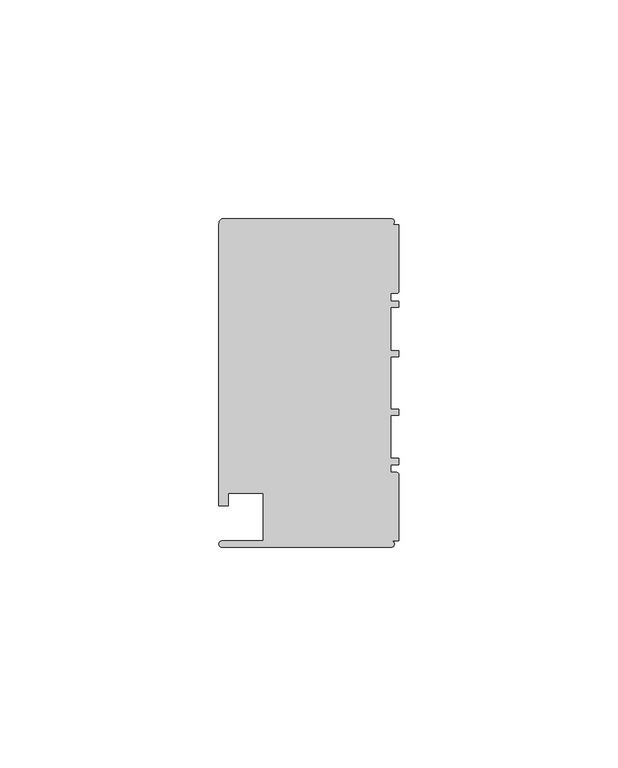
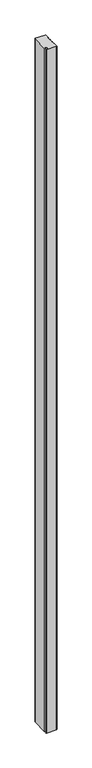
"""IFC4 building model written with IfcOpenShell, lengths in millimetres: member geometry, Прямоугольный импост : 1-AMG-1-Профиль 40Х75 Верх П."""

from ifc_helpers import new_model, si_unit, point, frame, frame_2d, origin, place, context, project, spatial, polyline, circle_curve, trimmed, segment, composite_curve, outline, extrude, source, transform, mapped, element, save


def member_fc8631e7(model_context):
    return source(origin(), model_context, "Body", "SweptSolid", [
        extrude(outline(composite_curve([segment(polyline([(-1.7, -37.5), (-40.4, -37.5)]), True, "CONTINUOUS"), segment(trimmed(circle_curve(frame_2d((-40.4, -36.8)), 0.7), [point((-40.4, -37.5))], [point((-40.4, -36.1))], False, "CARTESIAN"), True, "CONTINUOUS"), segment(polyline([(-40.4, -36.1), (-31.0, -36.1), (-31.0, -25.25), (-39.0, -25.25), (-39.0, -28.1), (-41.1, -28.1), (-41.1, 36.1)]), True, "CONTINUOUS"), segment(trimmed(circle_curve(frame_2d((-39.7541527, 36.3020763)), 1.3609334), [point((-41.1, 36.1))], [point((-40.4, 37.5))], False, "CARTESIAN"), True, "CONTINUOUS"), segment(polyline([(-40.4, 37.5), (-1.7, 37.5)]), True, "CONTINUOUS"), segment(trimmed(circle_curve(frame_2d((-1.7, 36.8)), 0.7), [point((-1.7, 37.5))], [point((-1.7, 36.1))], False, "CARTESIAN"), True, "CONTINUOUS"), segment(polyline([(-1.7, 36.1), (0.0, 36.1), (0.0, 20.95)]), True, "CONTINUOUS"), segment(trimmed(circle_curve(frame_2d((-0.5, 20.95)), 0.5), [point((0.0, 20.95))], [point((-0.5, 20.45))], False, "CARTESIAN"), True, "CONTINUOUS"), segment(polyline([(-0.5, 20.45), (-1.8, 20.45), (-1.8, 18.65), (0.0, 18.65), (0.0, 17.25), (-1.8, 17.25), (-1.8, 7.4), (0.0, 7.4), (0.0, 6.0), (-1.8, 6.0), (-1.8, -6.0), (0.0, -6.0), (0.0, -7.4), (-1.8, -7.4), (-1.8, -17.25), (0.0, -17.25), (0.0, -18.65), (-1.8, -18.65), (-1.8, -20.45), (-0.5, -20.45)]), True, "CONTINUOUS"), segment(trimmed(circle_curve(frame_2d((-0.5, -20.95)), 0.5), [point((-0.5, -20.45))], [point((0.0, -20.95))], False, "CARTESIAN"), True, "CONTINUOUS"), segment(polyline([(0.0, -20.95), (0.0, -36.1), (-1.7, -36.1)]), True, "CONTINUOUS"), segment(trimmed(circle_curve(frame_2d((-1.7, -36.8)), 0.7), [point((-1.7, -36.1))], [point((-1.7, -37.5))], False, "CARTESIAN"), True, "CONTINUOUS")], self_intersect=False)), frame((0.0, 0.0, -2717.7849139), z_axis=(0.0, 0.0, 1.0), x_axis=(1.0, 0.0, 0.0)), (0.0, 0.0, 1.0), 2717.7849139),
    ])


if __name__ == "__main__":
    model = new_model("IFC4")
    model_context = context("Model", 3, world=origin())
    ifc_project = project(units=[si_unit("LENGTHUNIT", "METRE", prefix="MILLI")], contexts=[model_context])
    site = spatial("IfcSite", under=ifc_project)
    building = spatial("IfcBuilding", under=site)
    placement = place(None, origin())
    member_shape = member_fc8631e7(model_context)
    element("IfcMember", 1, ObjectType="Прямоугольный импост : 1-AMG-1-Профиль 40Х75 Верх П", at=placement, inside=building, context=model_context, shape_type="MappedRepresentation", body=[
        mapped(member_shape, transform((0.0, 0.0, 0.0), x_axis=(1.0, 0.0, 0.0), y_axis=(0.0, 1.0, 0.0), z_axis=(0.0, 0.0, 1.0))),
    ])
    save(model, "model.ifc")
